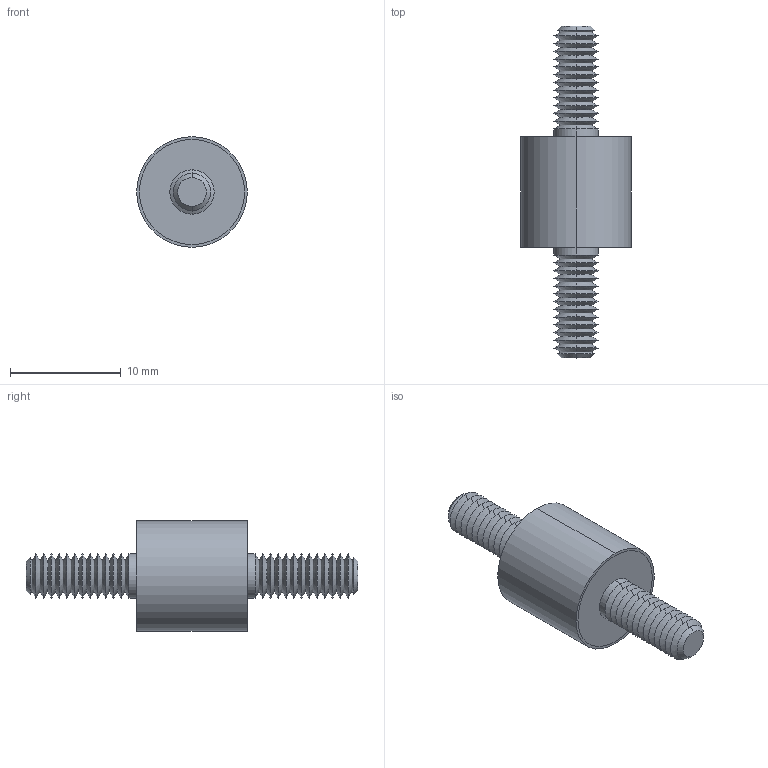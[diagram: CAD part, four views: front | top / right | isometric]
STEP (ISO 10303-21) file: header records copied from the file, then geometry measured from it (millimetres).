
FILE_DESCRIPTION (( 'STEP AP203' ), '1' );
FILE_NAME ('61040.W0102.step', '2019-09-24T22:23:20', ( '' ), ( '' ), 'SwSTEP 2.0', 'SolidWorks 2017', '' );
FILE_SCHEMA (( 'CONFIG_CONTROL_DESIGN' ));
Length unit declared in the file: millimetre
Products named in the file (4): Part2_61040.W0102; Part1_61040.W0102; 61040.W0102; Part3_61040.W0102
Assembly tree (3 placements, depth 2):
  61040.W0102
    Part1_61040.W0102
    Part2_61040.W0102
    Part3_61040.W0102
Bounding box: 10 x 30 x 10 mm (x, y, z)
Volume: 970.9 mm3; surface area: 1207.3 mm2
Topology: 3 solids, 3 shells, 132 faces, 258 edges, 136 vertices
Faces by surface type: cone 108, cylinder 14, plane 10
Entity records: 3708 total; most frequent: DIRECTION 670, CARTESIAN_POINT 532, ORIENTED_EDGE 516, AXIS2_PLACEMENT_3D 274, EDGE_CURVE 258, VERTEX_POINT 136, EDGE_LOOP 136, CIRCLE 136
